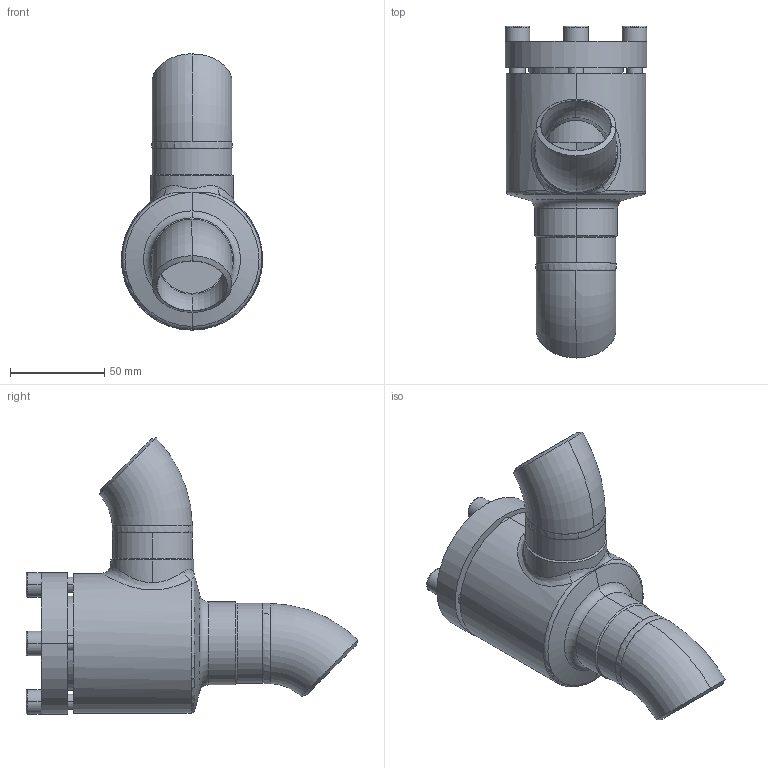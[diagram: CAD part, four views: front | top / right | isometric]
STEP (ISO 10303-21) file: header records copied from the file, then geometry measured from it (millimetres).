
FILE_DESCRIPTION (( 'STEP AP214' ), '1' );
FILE_NAME ('RV28300D13-DN032_R1_PS40.STEP', '2006-04-28T05:14:40', ( 'Herr Grams' ), ( 'AWP GmbH' ), 'SwSTEP 2.0', 'SolidWorks 2002296', '' );
FILE_SCHEMA (( 'AUTOMOTIVE_DESIGN' ));
Length unit declared in the file: millimetre
Products named in the file (9): RV28300D13-DN032_R1_PS40; RV28300E13_Deck+Schr-DN25-32_Standard; Deckel28300E13-DN25-32_Standard; Zylinderschraube-DIN912_M 8x 25; Gehäuse-kpl16300-DN032_R1_Standard; Gehäuse16400-DN032_Standard; Rohrbogen 45°_R1-Fase_Rohrbogen-DN032-45°; bead16300-Geh-032-2_Standard; bead16300-Geh-032-1_Standard
Assembly tree (12 placements, depth 3):
  RV28300D13-DN032_R1_PS40
    Gehäuse-kpl16300-DN032_R1_Standard
      bead16300-Geh-032-1_Standard
      Rohrbogen 45°_R1-Fase_Rohrbogen-DN032-45°  x2
      Gehäuse16400-DN032_Standard
      bead16300-Geh-032-2_Standard
    RV28300E13_Deck+Schr-DN25-32_Standard
      Zylinderschraube-DIN912_M 8x 25  x4
      Deckel28300E13-DN25-32_Standard
Bounding box: 75 x 175.93 x 146.43 mm (x, y, z)
Volume: 301264.8 mm3; surface area: 92341.7 mm2
Topology: 10 solids, 10 shells, 172 faces, 386 edges, 242 vertices
Faces by surface type: plane 54, cylinder 50, cone 38, torus 20, bspline 10
Entity records: 31926 total; most frequent: CARTESIAN_POINT 28889, DIRECTION 530, ORIENTED_EDGE 500, EDGE_CURVE 250, AXIS2_PLACEMENT_3D 223, VERTEX_POINT 156, EDGE_LOOP 128, ADVANCED_FACE 108
